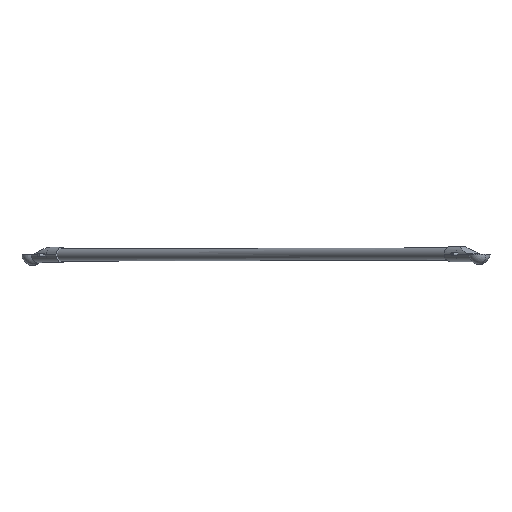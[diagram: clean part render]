
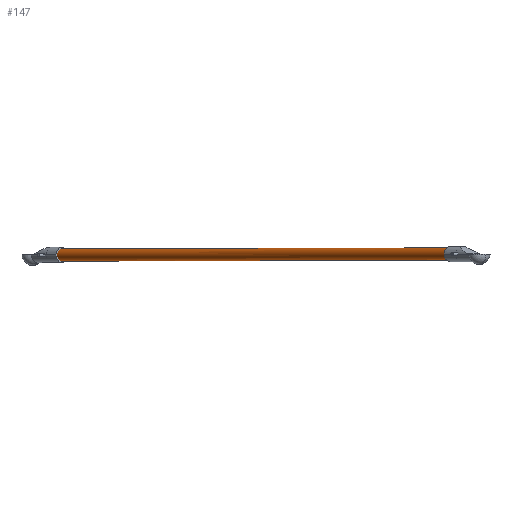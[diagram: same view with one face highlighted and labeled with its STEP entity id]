
A CAD part, top view. The second image highlights one B-rep face of the part: STEP entity #147.
In plain terms, the highlighted cylindrical face has radius 7 mm (diameter 14 mm), a partial arc.
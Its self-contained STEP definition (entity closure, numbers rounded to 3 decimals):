
#5 = AXIS2_PLACEMENT_3D ( 'NONE', #318, #832, #72 ) ;
#6 = CARTESIAN_POINT ( 'NONE',  ( 66.243, -44., -869.56 ) ) ;
#42 = ORIENTED_EDGE ( 'NONE', *, *, #78, .F. ) ;
#72 = DIRECTION ( 'NONE',  ( 0., -1., 0. ) ) ;
#77 = CIRCLE ( 'NONE', #5, 7. ) ;
#78 = EDGE_CURVE ( 'NONE', #897, #708, #852, .T. ) ;
#147 = ADVANCED_FACE ( 'NONE', ( #1019 ), #517, .T. ) ;
#151 = VECTOR ( 'NONE', #530, 1000. ) ;
#205 = AXIS2_PLACEMENT_3D ( 'NONE', #416, #338, #350 ) ;
#265 = DIRECTION ( 'NONE',  ( 0., -1., 0. ) ) ;
#307 = LINE ( 'NONE', #894, #151 ) ;
#318 = CARTESIAN_POINT ( 'NONE',  ( 528.857, -51., -300.985 ) ) ;
#338 = DIRECTION ( 'NONE',  ( 0.631, 0., 0.776 ) ) ;
#350 = DIRECTION ( 'NONE',  ( 0., 1., 0. ) ) ;
#369 = CIRCLE ( 'NONE', #581, 7. ) ;
#416 = CARTESIAN_POINT ( 'NONE',  ( 66.243, -51., -869.56 ) ) ;
#454 = VECTOR ( 'NONE', #603, 1000. ) ;
#500 = CARTESIAN_POINT ( 'NONE',  ( 66.243, -58., -869.56 ) ) ;
#517 = CYLINDRICAL_SURFACE ( 'NONE', #205, 7. ) ;
#519 = ORIENTED_EDGE ( 'NONE', *, *, #1090, .F. ) ;
#530 = DIRECTION ( 'NONE',  ( 0.631, 0., 0.776 ) ) ;
#538 = ORIENTED_EDGE ( 'NONE', *, *, #850, .T. ) ;
#581 = AXIS2_PLACEMENT_3D ( 'NONE', #588, #944, #265 ) ;
#588 = CARTESIAN_POINT ( 'NONE',  ( 66.243, -51., -869.56 ) ) ;
#603 = DIRECTION ( 'NONE',  ( 0.631, 0., 0.776 ) ) ;
#634 = EDGE_CURVE ( 'NONE', #774, #708, #77, .T. ) ;
#708 = VERTEX_POINT ( 'NONE', #958 ) ;
#774 = VERTEX_POINT ( 'NONE', #996 ) ;
#832 = DIRECTION ( 'NONE',  ( -0.631, 0., -0.776 ) ) ;
#850 = EDGE_CURVE ( 'NONE', #1045, #774, #307, .T. ) ;
#852 = LINE ( 'NONE', #6, #454 ) ;
#894 = CARTESIAN_POINT ( 'NONE',  ( 66.243, -58., -869.56 ) ) ;
#897 = VERTEX_POINT ( 'NONE', #1071 ) ;
#944 = DIRECTION ( 'NONE',  ( -0.631, 0., -0.776 ) ) ;
#958 = CARTESIAN_POINT ( 'NONE',  ( 528.857, -44., -300.985 ) ) ;
#962 = EDGE_LOOP ( 'NONE', ( #519, #538, #1083, #42 ) ) ;
#996 = CARTESIAN_POINT ( 'NONE',  ( 528.857, -58., -300.985 ) ) ;
#1019 = FACE_OUTER_BOUND ( 'NONE', #962, .T. ) ;
#1045 = VERTEX_POINT ( 'NONE', #500 ) ;
#1071 = CARTESIAN_POINT ( 'NONE',  ( 66.243, -44., -869.56 ) ) ;
#1083 = ORIENTED_EDGE ( 'NONE', *, *, #634, .T. ) ;
#1090 = EDGE_CURVE ( 'NONE', #1045, #897, #369, .T. ) ;
